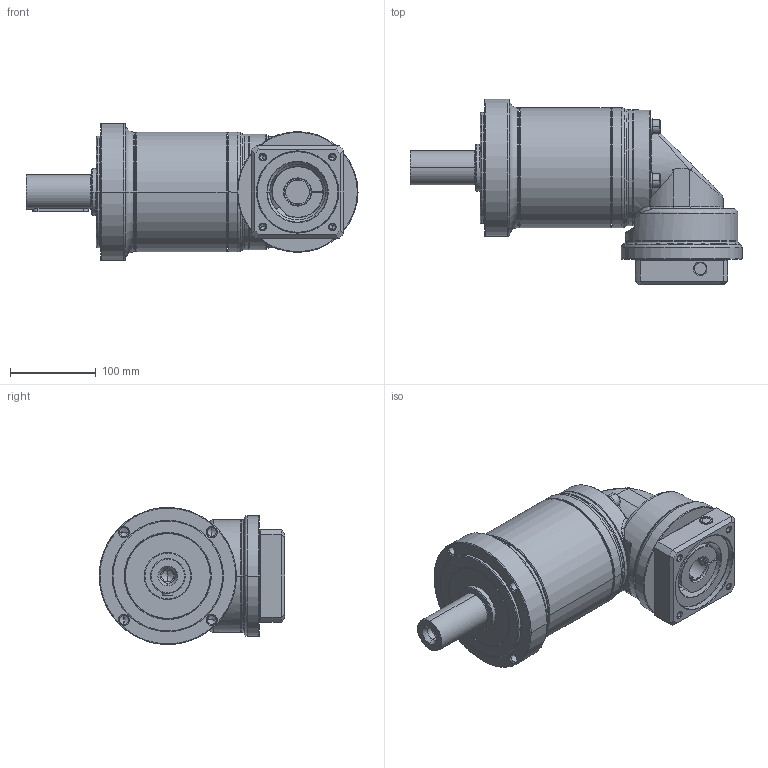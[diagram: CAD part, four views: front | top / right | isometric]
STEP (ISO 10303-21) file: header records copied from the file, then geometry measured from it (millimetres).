
FILE_DESCRIPTION((''),'2;1');
FILE_NAME('PG2R-160_2ST_28-P0411600101_ASM','2016-04-26T',('d01943'),(''),'PRO/ENGINEER BY PARAMETRIC TECHNOLOGY CORPORATION, 2008410','PRO/ENGINEER BY PARAMETRIC TECHNOLOGY CORPORATION, 2008410','');
FILE_SCHEMA(('CONFIG_CONTROL_DESIGN'));
Length unit declared in the file: millimetre
Products named in the file (12): P1325510001; P0251500001; P0350501103; P1349500001; P1017500001; P0713502001; P0503600008; P1350500201; P0411600101; P1702500001; 2111BA10040; PG2R-160_2ST_28-P0411600101_ASM
Assembly tree (14 placements, depth 2):
  PG2R-160_2ST_28-P0411600101_ASM
    P1325510001
    P0251500001
    P0350501103
    P1349500001
    P1017500001
    P0713502001
    P0503600008
    P1350500201
    P0411600101
    P1702500001
    2111BA10040  x4
Bounding box: 387.5 x 216.5 x 160 mm (x, y, z)
Volume: 2914946.3 mm3; surface area: 488371.1 mm2
Topology: 14 solids, 15 shells, 715 faces, 1571 edges, 910 vertices
Faces by surface type: cylinder 221, cone 198, plane 156, torus 108, bspline 32
Entity records: 22675 total; most frequent: CARTESIAN_POINT 8866, DIRECTION 3071, ORIENTED_EDGE 2666, EDGE_CURVE 1333, AXIS2_PLACEMENT_3D 1301, VERTEX_POINT 790, EDGE_LOOP 693, CIRCLE 691
